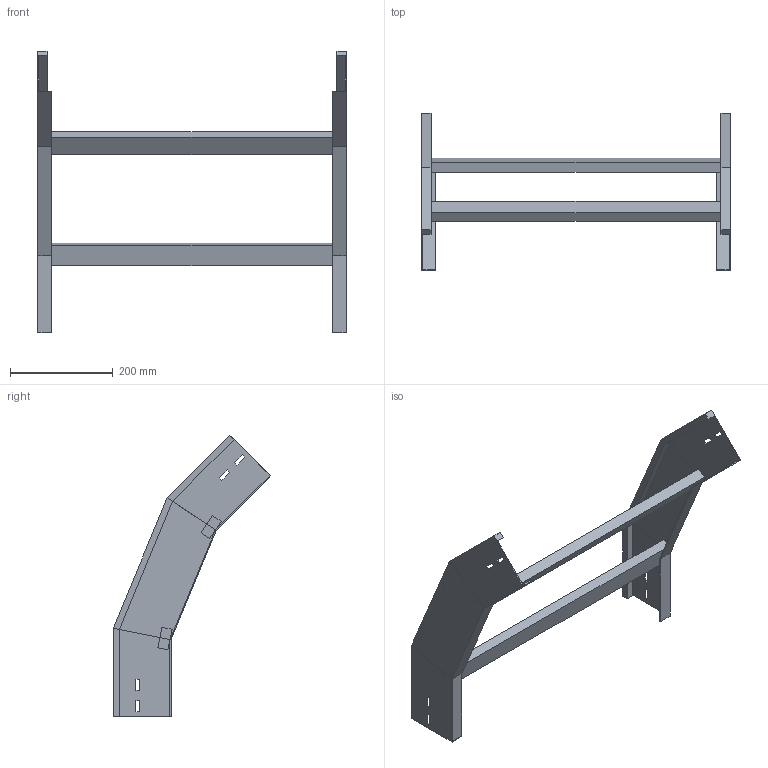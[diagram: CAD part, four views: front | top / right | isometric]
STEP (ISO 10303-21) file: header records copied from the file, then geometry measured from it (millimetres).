
FILE_DESCRIPTION (( 'STEP AP214' ), '1' );
FILE_NAME ('A2_34B3J600.step', '2025-02-21T14:53:23', ( '' ), ( '' ), 'SwSTEP 2.0', 'SolidWorks 2023', '' );
FILE_SCHEMA (( 'AUTOMOTIVE_DESIGN' ));
Length unit declared in the file: millimetre
Products named in the file (3): A2_34B3J600; LONGH.DISCESA_45°_H112.5_R300; TRAVERSINO_600
Assembly tree (5 placements, depth 2):
  A2_34B3J600
    LONGH.DISCESA_45°_H112.5_R300  x2
    TRAVERSINO_600  x3
Bounding box: 600 x 306.58 x 548.11 mm (x, y, z)
Volume: 1993594.3 mm3; surface area: 577200.6 mm2
Topology: 5 solids, 5 shells, 102 faces, 244 edges, 152 vertices
Faces by surface type: plane 102
Entity records: 1480 total; most frequent: CARTESIAN_POINT 244, ORIENTED_EDGE 232, DIRECTION 228, EDGE_CURVE 116, VECTOR 116, LINE 116, VERTEX_POINT 72, AXIS2_PLACEMENT_3D 56
